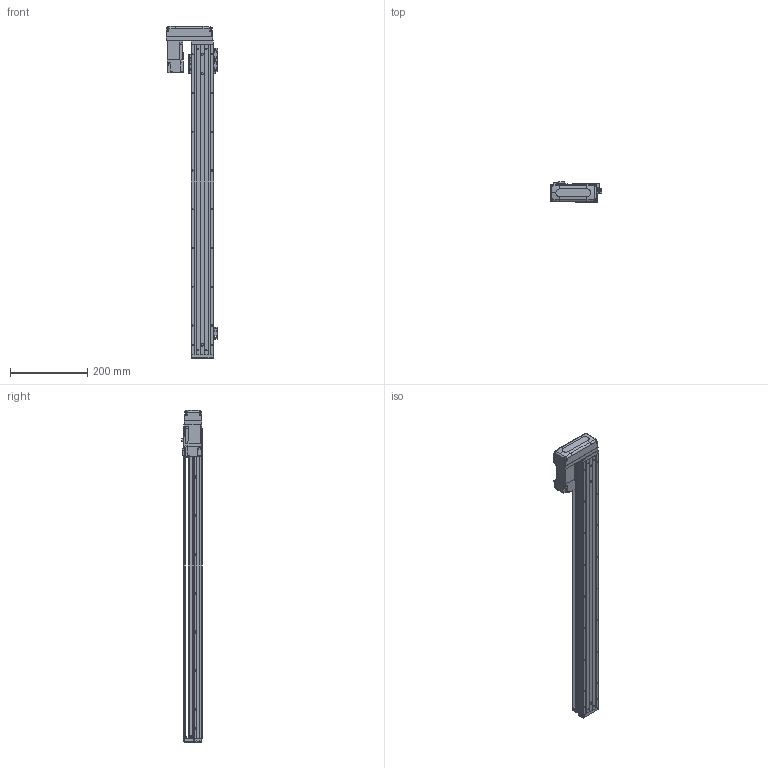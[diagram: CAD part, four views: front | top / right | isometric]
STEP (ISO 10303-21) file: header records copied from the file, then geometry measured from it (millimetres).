
FILE_DESCRIPTION (( 'STEP AP203' ), '1' );
FILE_NAME ('KTHA50-700-BR-M10-C4L.step', '2022-03-19T07:16:36', ( '微软用户' ), ( '微软中国' ), 'SwSTEP 2.0', 'SolidWorks 2020', '' );
FILE_SCHEMA (( 'CONFIG_CONTROL_DESIGN' ));
Length unit declared in the file: millimetre
Products named in the file (18): GBT77-2000 M3×3; HG-KR13（三菱）; KTHA50-001_800; GBT 70.1-M3℅6; CTHA50-015-2_CTHA60-015-2; KTHA50-002; CTHA60-017; CTHA60-033; KTHA50-004; GBT 70.1-M4×12; GBT 70.1-M3×15; KTHA50-005; CTHA60-016; KTHA50-700-BR-M10-C4L; GB¨uT 70.2-M3¡Á6_M3¡Á6; CTHA60-021; EE_SX911P_R; GBT 70.3-M3℅6
Assembly tree (53 placements, depth 2):
  KTHA50-700-BR-M10-C4L
    KTHA50-001_800
    KTHA50-002
    KTHA50-004
    KTHA50-005
    GB¨uT 70.2-M3¡Á6_M3¡Á6  x6
    EE_SX911P_R  x3
    GBT77-2000 M3×3  x6
    GBT 70.1-M3℅6  x6
    CTHA60-017  x3
    GBT 70.1-M4×12  x10
    CTHA60-016  x2
    CTHA60-021  x2
    GBT 70.3-M3℅6  x4
    HG-KR13（三菱）
    CTHA50-015-2_CTHA60-015-2
    CTHA60-033
    GBT 70.1-M3×15  x4
Bounding box: 133.82 x 52.3 x 857 mm (x, y, z)
Volume: 1658777.3 mm3; surface area: 405748.7 mm2
Topology: 56 solids, 56 shells, 2323 faces, 5519 edges, 3388 vertices
Faces by surface type: plane 1300, cylinder 568, cone 313, torus 100, bspline 26, sphere 16
Entity records: 40173 total; most frequent: CARTESIAN_POINT 7570, DIRECTION 6295, ORIENTED_EDGE 6050, EDGE_CURVE 3025, AXIS2_PLACEMENT_3D 2129, VECTOR 2037, LINE 2037, VERTEX_POINT 1902
